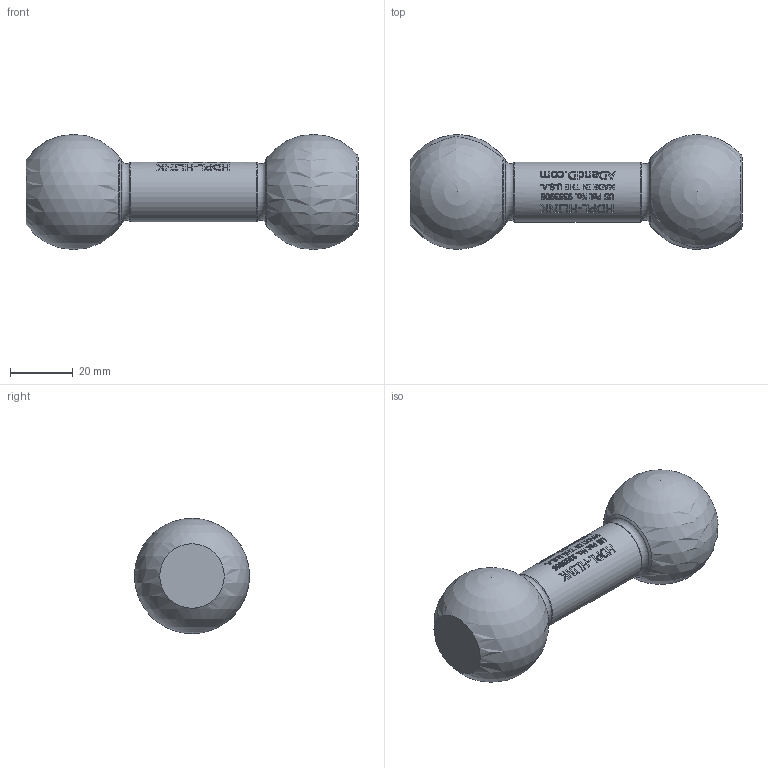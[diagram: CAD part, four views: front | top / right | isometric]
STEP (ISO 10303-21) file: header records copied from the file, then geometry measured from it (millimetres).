
FILE_DESCRIPTION(/* description */ (''),/* implementation_level */ '2;1');
FILE_NAME(/* name */ 'C:\Users\owner\Desktop\HDPL-HYPERLINKS_3D_stp\HDPL-HLINK3IN.stp',/* time_stamp */ '2017-10-02T13:27:07-04:00',/* author */ ('owner'),/* organization */ (''),/* preprocessor_version */ 'ST-DEVELOPER v16.5',/* originating_system */ 'Autodesk Inventor 2017',/* authorisation */ '');
FILE_SCHEMA (('CONFIG_CONTROL_DESIGN'));
Length unit declared in the file: inch
Products named in the file (3): PL-HDHLINK3IN; 60063; 60062
Assembly tree (2 placements, depth 2):
  PL-HDHLINK3IN
    60063
    60062
Bounding box: 105.61 x 36.52 x 36.65 mm (x, y, z)
Volume: 58121.1 mm3; surface area: 14014.8 mm2
Topology: 2 solids, 2 shells, 771 faces, 2077 edges, 1379 vertices
Faces by surface type: bspline 343, plane 333, cylinder 77, torus 11, cone 5, sphere 2
Full cylindrical faces by diameter (mm): 13.017 x1, 13.08 x4, 13.109 x2, 19.083 x1, 21.92 x1
Entity records: 32631 total; most frequent: CARTESIAN_POINT 15276, ORIENTED_EDGE 4088, DIRECTION 2596, EDGE_CURVE 2044, VERTEX_POINT 1373, LINE 1008, VECTOR 1008, EDGE_LOOP 867
